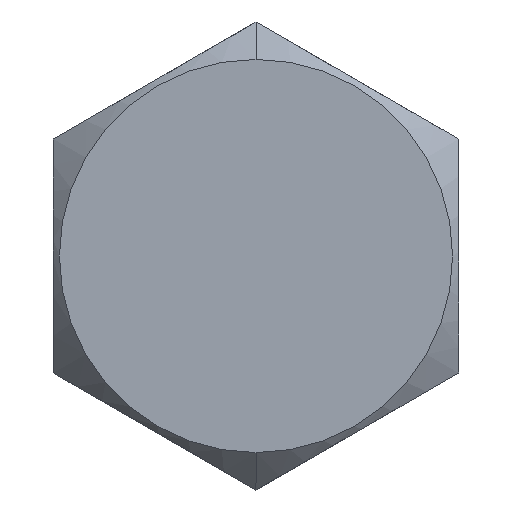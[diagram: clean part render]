
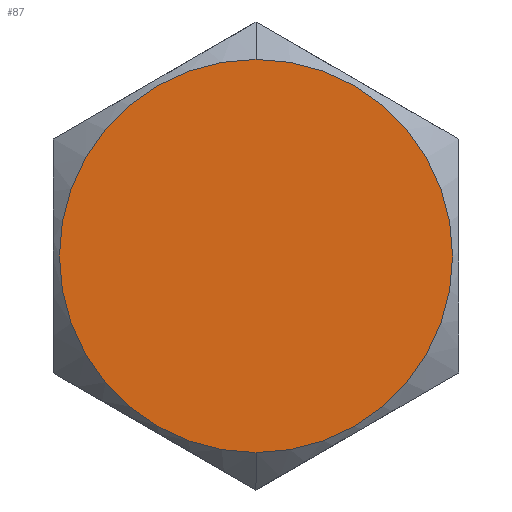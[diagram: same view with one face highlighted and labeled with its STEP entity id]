
A CAD part, left-side view. The second image highlights one B-rep face of the part: STEP entity #87.
In plain terms, the highlighted planar face has unit normal (-1, 0, 0).
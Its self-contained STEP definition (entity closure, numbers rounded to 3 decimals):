
#51 = ORIENTED_EDGE ( 'NONE', *, *, #352, .F. ) ;
#70 = EDGE_LOOP ( 'NONE', ( #101, #51 ) ) ;
#87 = ADVANCED_FACE ( 'NONE', ( #527 ), #652, .F. ) ;
#88 = CARTESIAN_POINT ( 'NONE',  ( 0., 0., 0. ) ) ;
#101 = ORIENTED_EDGE ( 'NONE', *, *, #248, .F. ) ;
#164 = VERTEX_POINT ( 'NONE', #460 ) ;
#204 = CARTESIAN_POINT ( 'NONE',  ( 0., 0., 6.306 ) ) ;
#248 = EDGE_CURVE ( 'NONE', #164, #449, #312, .T. ) ;
#258 = AXIS2_PLACEMENT_3D ( 'NONE', #380, #567, #810 ) ;
#312 = CIRCLE ( 'NONE', #336, 6.306 ) ;
#336 = AXIS2_PLACEMENT_3D ( 'NONE', #794, #429, #418 ) ;
#346 = DIRECTION ( 'NONE',  ( 1., 0., 0. ) ) ;
#352 = EDGE_CURVE ( 'NONE', #449, #164, #612, .T. ) ;
#380 = CARTESIAN_POINT ( 'NONE',  ( 0., 0., 0. ) ) ;
#418 = DIRECTION ( 'NONE',  ( 0., 0., -1. ) ) ;
#429 = DIRECTION ( 'NONE',  ( 1., 0., 0. ) ) ;
#449 = VERTEX_POINT ( 'NONE', #204 ) ;
#453 = DIRECTION ( 'NONE',  ( 0., 0., -1. ) ) ;
#460 = CARTESIAN_POINT ( 'NONE',  ( 0., 0., -6.306 ) ) ;
#527 = FACE_OUTER_BOUND ( 'NONE', #70, .T. ) ;
#567 = DIRECTION ( 'NONE',  ( 1., 0., 0. ) ) ;
#612 = CIRCLE ( 'NONE', #258, 6.306 ) ;
#652 = PLANE ( 'NONE',  #789 ) ;
#789 = AXIS2_PLACEMENT_3D ( 'NONE', #88, #346, #453 ) ;
#794 = CARTESIAN_POINT ( 'NONE',  ( 0., 0., 0. ) ) ;
#810 = DIRECTION ( 'NONE',  ( 0., 0., -1. ) ) ;
